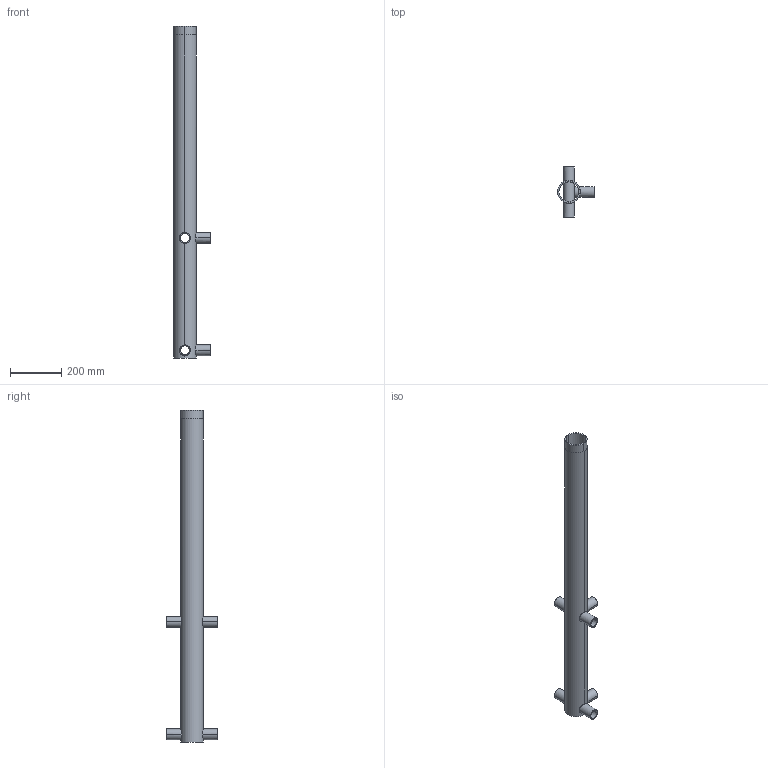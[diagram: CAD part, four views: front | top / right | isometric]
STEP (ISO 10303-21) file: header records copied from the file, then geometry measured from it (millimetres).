
FILE_DESCRIPTION(/* description */ ('VariCAD 2010-3.03 AP-214'),/* implementation_level */ '2;1');
FILE_NAME(/* name */ '0353-22-12',/* time_stamp */ '2011-06-28T22:23:09-06:00',/* author */ (''),/* organization */ (''),/* preprocessor_version */ 'ST-DEVELOPER v12',/* originating_system */ 'VariCAD 2010-3.03; kernel version (20100102)',/* authorisation */ '');
FILE_SCHEMA (('AUTOMOTIVE_DESIGN'));
Length unit declared in the file: millimetre
Products named in the file (1): Part
Bounding box: 144.45 x 200 x 1300 mm (x, y, z)
Volume: 2052290.8 mm3; surface area: 800438.2 mm2
Topology: 1 solids, 1 shells, 89 faces, 278 edges, 172 vertices
Faces by surface type: cylinder 78, plane 11
Entity records: 5326 total; most frequent: CARTESIAN_POINT 2673, ORIENTED_EDGE 556, DIRECTION 376, EDGE_CURVE 278, VERTEX_POINT 172, AXIS2_PLACEMENT_3D 135, B_SPLINE_CURVE_WITH_KNOTS 128, EDGE_LOOP 108
